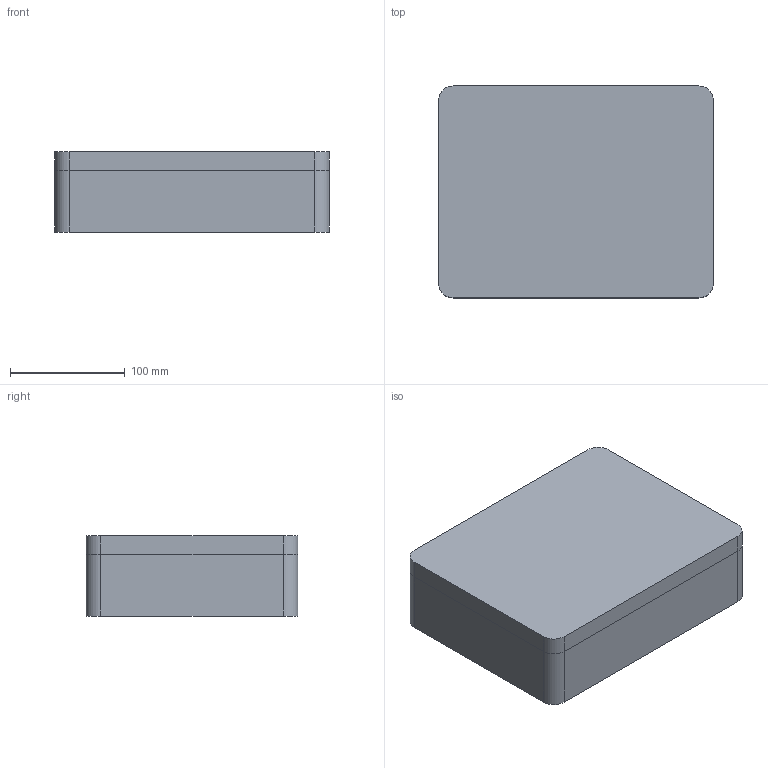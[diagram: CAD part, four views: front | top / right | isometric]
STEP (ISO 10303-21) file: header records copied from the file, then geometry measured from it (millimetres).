
FILE_DESCRIPTION(/* description */ ('VariCAD 2010-2.03 AP-203'),/* implementation_level */ '2;1');
FILE_NAME(/* name */ '0353-62-01',/* time_stamp */ '2010-04-30T12:53:40-06:00',/* author */ (''),/* organization */ (''),/* preprocessor_version */ 'ST-DEVELOPER v12',/* originating_system */ 'VariCAD 2010-2.03; kernel version (20100102)',/* authorisation */ '');
FILE_SCHEMA (('CONFIG_CONTROL_DESIGN'));
Length unit declared in the file: millimetre
Products named in the file (1): Part
Bounding box: 240 x 185 x 70 mm (x, y, z)
Volume: 2107975.5 mm3; surface area: 197351.7 mm2
Topology: 1 solids, 1 shells, 62 faces, 166 edges, 108 vertices
Faces by surface type: plane 43, cylinder 19
Entity records: 1966 total; most frequent: CARTESIAN_POINT 338, ORIENTED_EDGE 332, DIRECTION 328, EDGE_CURVE 166, LINE 132, VECTOR 132, VERTEX_POINT 108, AXIS2_PLACEMENT_3D 98
